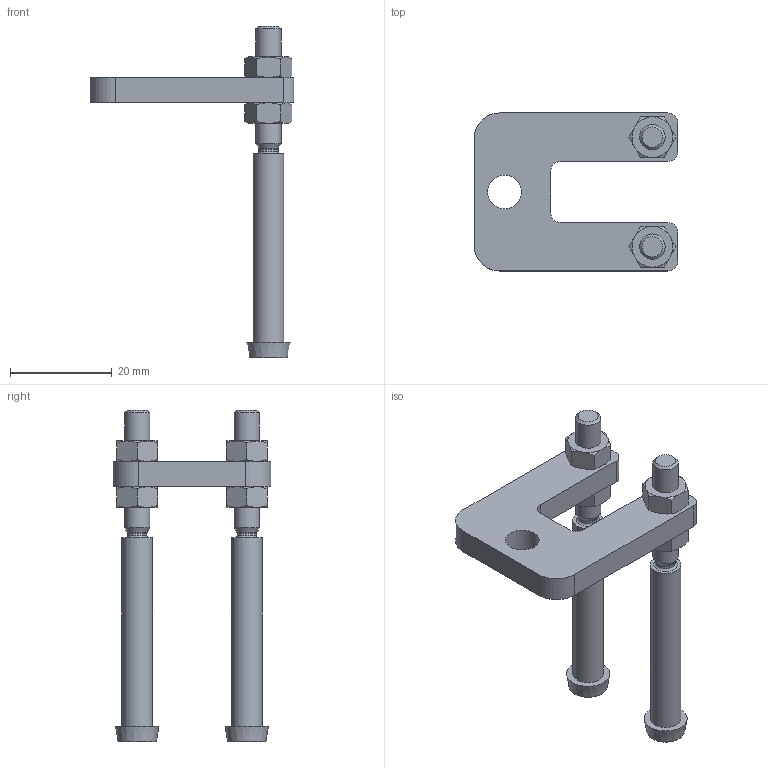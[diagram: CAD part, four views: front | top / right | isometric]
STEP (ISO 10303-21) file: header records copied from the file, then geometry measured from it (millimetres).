
FILE_DESCRIPTION(/* description */ (''),/* implementation_level */ '2;1');
FILE_NAME(/* name */ 'C:\Local Work Area\Progetti\AP\CALIBRI\90.XX PRESSINI\93.00.stp',/* time_stamp */ '2016-05-05T15:43:36+02:00',/* author */ ('CAD2'),/* organization */ (''),/* preprocessor_version */ 'ST-DEVELOPER v15.2',/* originating_system */ 'Autodesk Inventor 2014',/* authorisation */ '0 mm^3');
FILE_SCHEMA (('CONFIG_CONTROL_DESIGN'));
Length unit declared in the file: millimetre
Products named in the file (7): 93.01; 93.02; 92.02; 92.01; 93.03; UNI 5588 - M5 - 0,8; 93.00
Bounding box: 40 x 31 x 65 mm (x, y, z)
Volume: 8327 mm3; surface area: 7114.3 mm2
Topology: 11 solids, 11 shells, 159 faces, 330 edges, 199 vertices
Faces by surface type: cone 66, plane 60, cylinder 29, torus 4
Full cylindrical faces by diameter (mm): 3.242 x2, 3.776 x2, 3.978 x2, 4.134 x6, 4.976 x2, 5.5 x4, 6 x2, 6.647 x1
Entity records: 1877 total; most frequent: CARTESIAN_POINT 339, DIRECTION 324, ORIENTED_EDGE 240, AXIS2_PLACEMENT_3D 143, EDGE_CURVE 120, EDGE_LOOP 98, VERTEX_POINT 86, ADVANCED_FACE 67
